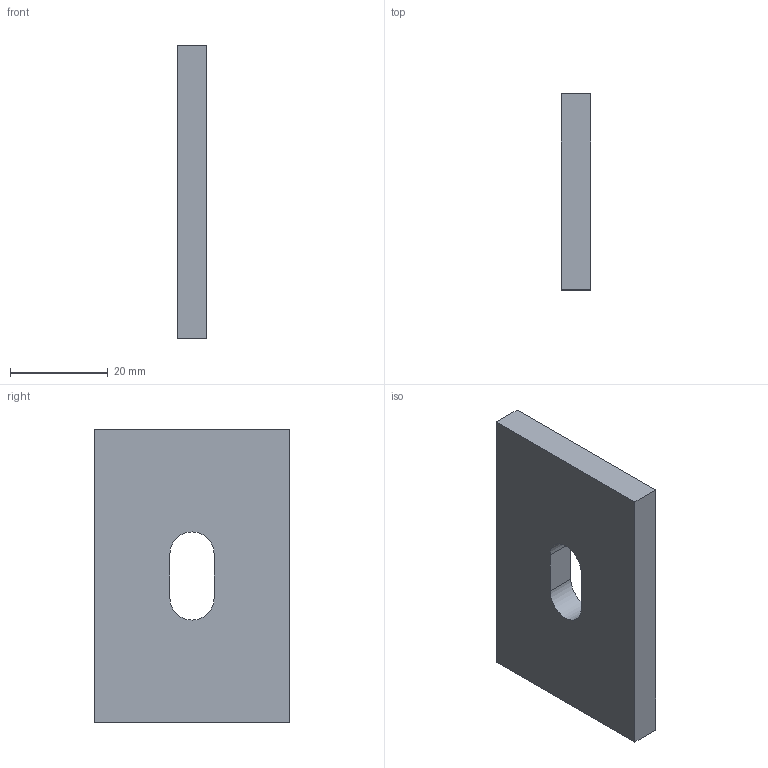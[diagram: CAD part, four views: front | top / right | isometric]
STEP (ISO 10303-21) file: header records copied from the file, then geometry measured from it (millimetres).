
FILE_DESCRIPTION(('Open CASCADE Model'),'2;1');
FILE_NAME('Open CASCADE Shape Model','2026-09-07T11:14:25',('Author'),( 'Open CASCADE'),'Open CASCADE STEP processor 7.9','Open CASCADE 7.9' ,'Unknown');
FILE_SCHEMA(('AUTOMOTIVE_DESIGN { 1 0 10303 214 1 1 1 1 }'));
Length unit declared in the file: millimetre
Products named in the file (1): Open CASCADE STEP translator 7.9 26
Bounding box: 6 x 40 x 60 mm (x, y, z)
Volume: 13532.3 mm3; surface area: 5988.4 mm2
Topology: 1 solids, 1 shells, 10 faces, 24 edges, 16 vertices
Faces by surface type: plane 8, cylinder 2
Entity records: 630 total; most frequent: CARTESIAN_POINT 123, DIRECTION 94, LINE 64, VECTOR 64, ORIENTED_EDGE 48, PCURVE 48, DEFINITIONAL_REPRESENTATION 48, EDGE_CURVE 24
